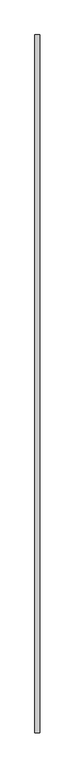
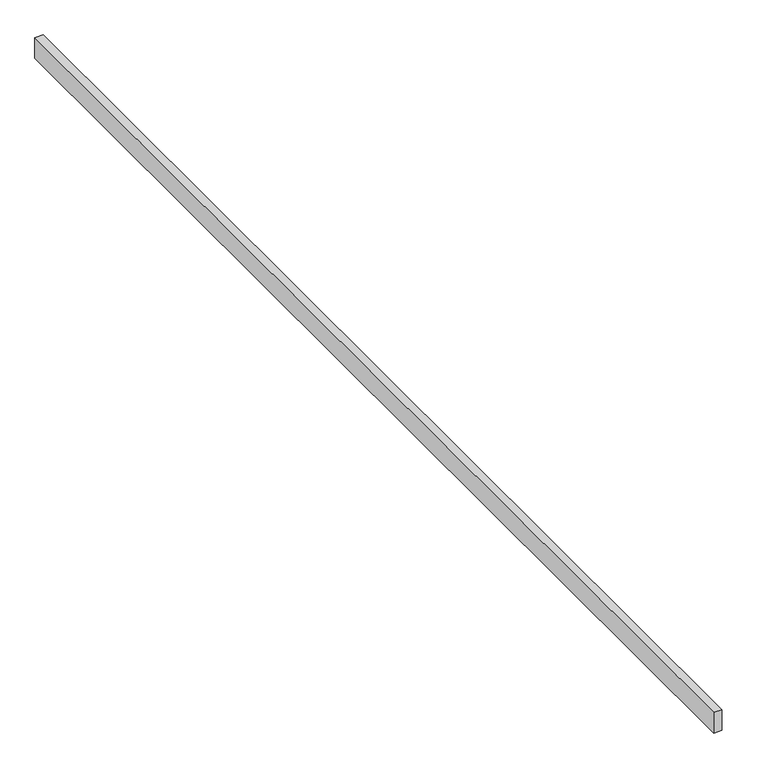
"""IFC4 building model written with IfcOpenShell, lengths in millimetres: proxy geometry, Modelos genéricos 83 : Modelos genéricos 1."""

from ifc_helpers import new_model, si_unit, frame, origin, place, context, project, spatial, polyline, outline, extrude, source, transform, mapped, element, save


def generic_models_66b1627d(model_context):
    return source(origin(), model_context, "Body", "SweptSolid", [
        extrude(outline(polyline([(1923.4472467, 6228.6238165), (1983.4472467, 6228.6238165), (1983.4472467, -2331.3761835), (1923.4472467, -2331.3761835), (1923.4472467, 6228.6238165)])), frame((0.0, 0.0, 3000.0), z_axis=(0.0, 0.0, 1.0), x_axis=(1.0, 0.0, 0.0)), (0.0, 0.0, 1.0), 160.0),
    ])


if __name__ == "__main__":
    model = new_model("IFC4")
    model_context = context("Model", 3, world=origin())
    ifc_project = project(units=[si_unit("LENGTHUNIT", "METRE", prefix="MILLI")], contexts=[model_context])
    site = spatial("IfcSite", under=ifc_project)
    building = spatial("IfcBuilding", under=site)
    placement = place(None, origin())
    generic_models_shape = generic_models_66b1627d(model_context)
    element("IfcBuildingElementProxy", 1, Name="Modelos genéricos 83 : Modelos genéricos 1", ObjectType="Modelos genéricos 83 : Modelos genéricos 1", at=placement, inside=building, context=model_context, shape_type="MappedRepresentation", body=[
        mapped(generic_models_shape, transform((0.0, 0.0, 0.0), x_axis=(1.0, 0.0, 0.0), y_axis=(0.0, 1.0, 0.0), z_axis=(0.0, 0.0, 1.0))),
    ])
    save(model, "model.ifc")
